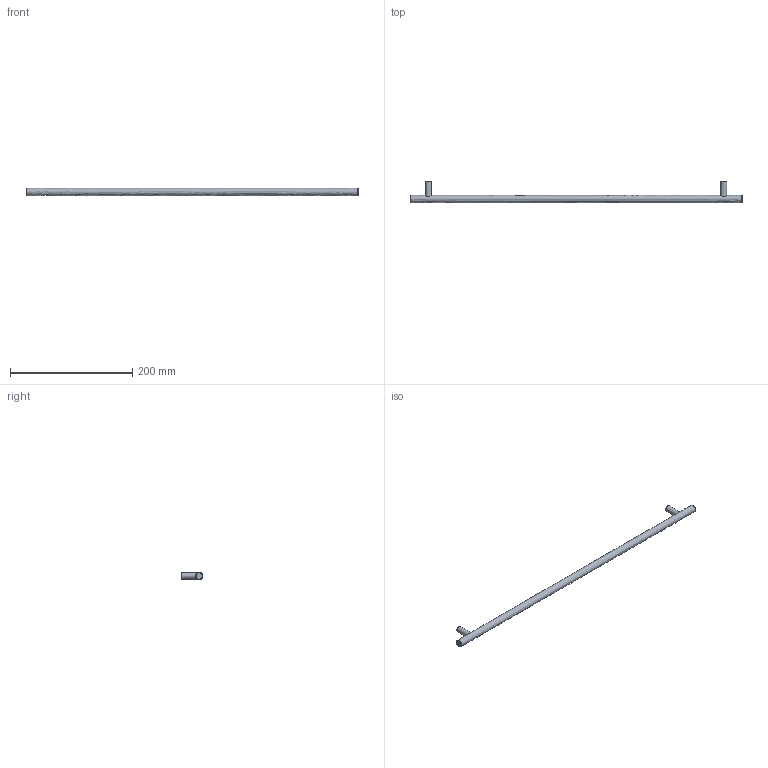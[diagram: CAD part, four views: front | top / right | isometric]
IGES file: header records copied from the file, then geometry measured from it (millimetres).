
Start section: Data from Parasolid IGES Translator 15.0.47, Copyright(c) 2006 Siemens P LM Software. All Rights Reserved.
Global section: file name: 9070738.igs; native system:  By UGS Corp.; preprocessor: XPlus GENERIC/IGES 3.0; author: Noname; organization: Noname; date: 20140123.103932; units: millimetre
Bounding box: 544 x 35 x 12 mm (x, y, z)
Surface area: 22406.1 mm2 (no closed solid volume)
Topology: 0 solids, 0 shells, 13 faces, 42 edges, 34 vertices
Faces by surface type: revolution 7, extrusion 6
